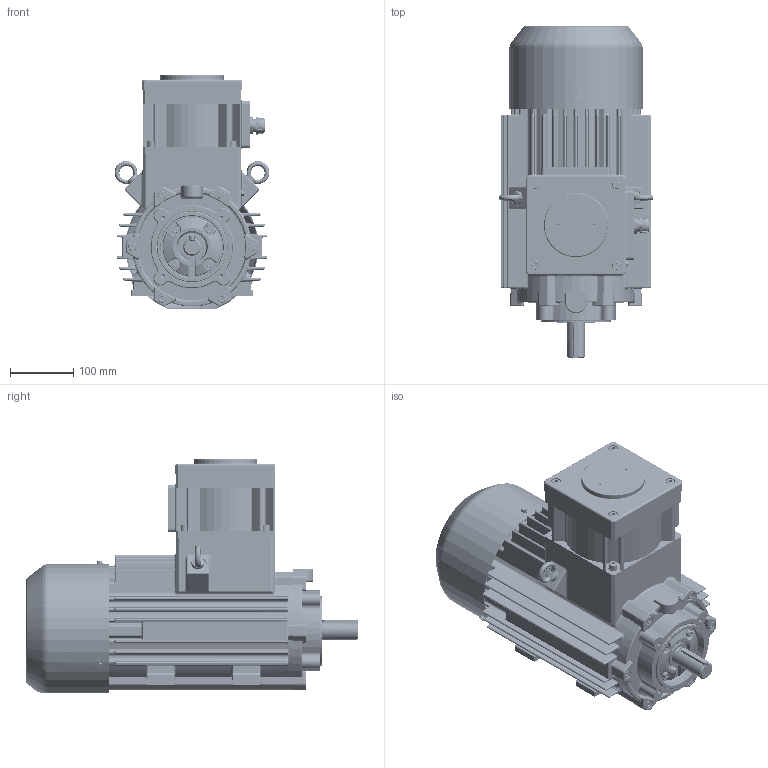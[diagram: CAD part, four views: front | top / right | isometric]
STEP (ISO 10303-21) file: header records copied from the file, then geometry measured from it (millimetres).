
FILE_DESCRIPTION(/* description */ ('Unknown'),/* implementation_level */ '2;1');
FILE_NAME(/* name */ '(E)cSTK1e100L(2-8)-IE(2,3)',/* time_stamp */ '2021-12-17T11:13:06+01:00',/* author */ ('Unknown'),/* organization */ ('Unknown'),/* preprocessor_version */ 'ST-DEVELOPER v16.7',/* originating_system */ 'DEX',/* authorisation */ $);
FILE_SCHEMA (('AUTOMOTIVE_DESIGN {1 0 10303 214 3 1 1}'));
Length unit declared in the file: millimetre
Products named in the file (1): (E)cSTK1e100L(2-8)-IE(2,3)
Bounding box: 244.02 x 522.99 x 369 mm (x, y, z)
Volume: 16163609.4 mm3; surface area: 1184597.1 mm2
Topology: 3 solids, 23 shells, 4060 faces, 10579 edges, 6550 vertices
Faces by surface type: cylinder 1627, plane 1364, torus 369, bspline 296, cone 255, sphere 149
Full cylindrical faces by diameter (mm): 3.2 x4, 4.019 x3, 4.48 x1, 4.773 x4, 4.917 x22, 5 x7, 5.3 x4, 6 x10, 6.466 x14, 6.6 x4, 6.647 x20, 6.88 x4, 8 x30, 8.376 x13, 9 x10, 10 x8, 11 x4, 13 x14, 15 x11, 15.205 x1, 16.779 x1, 17.307 x1, 18.487 x1, 21.24 x1, 22.376 x1, 23.376 x1, 27.4 x1, 28 x3, 28.6 x3, 29.4 x2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
Entity records: 147993 total; most frequent: CARTESIAN_POINT 31414, DIRECTION 20398, ORIENTED_EDGE 19488, EDGE_CURVE 9744, AXIS2_PLACEMENT_3D 7953, VERTEX_POINT 6318, FACE_BOUND 4982, EDGE_LOOP 4941
